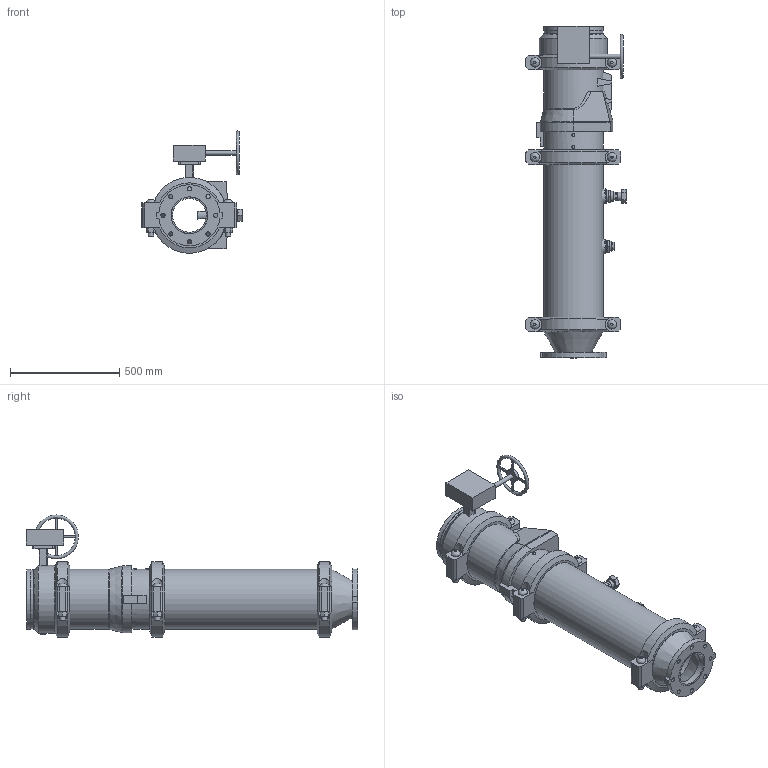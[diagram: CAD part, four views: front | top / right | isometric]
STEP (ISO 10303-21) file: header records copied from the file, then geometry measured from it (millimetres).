
FILE_DESCRIPTION(/* description */ ('VIC DVI PUMP DROP VERT S/380 (OGSxFLG) (S/924-1.25)','CAx-IF Rec.Pracs.---Representation and Presentation of Product Manufacturing Information (PMI)---4.0---2014-10-13'),/* implementation_level */ '2;1');
FILE_NAME(/* name */ 'C:\Users\Public\Documents\Victaulic.Temp\A765\Victaulic_IPS_Vertical DVI_CL 150_Series 380 (OGSxFLG)_924 (1.25)_10.0x06.0 (250x150).stp',/* time_stamp */ '2022-07-25T11:14:09+02:00',/* author */ ('Vjadhav'),/* organization */ ('Victaulic'),/* preprocessor_version */ 'ST-DEVELOPER v18',/* originating_system */ 'Autodesk Inventor 2020',/* authorisation */ '');
FILE_SCHEMA (('AP242_MANAGED_MODEL_BASED_3D_ENGINEERING_MIM_LF { 1 0 10303 442 1 1 4 }'));
Length unit declared in the file: inch
Products named in the file (9): 380_924 (1.25)-10.0x06.0; 741-06.0; 050-10.0x06.0; Pipe-10.0; 779-10.0; 923-10.0x0.75; 924-10.0x01.25; 761-10.0; 077-10.0
Assembly tree (10 placements, depth 2):
  380_924 (1.25)-10.0x06.0
    741-06.0
    050-10.0x06.0
    Pipe-10.0
    779-10.0
    923-10.0x0.75
    924-10.0x01.25
    761-10.0
    077-10.0  x3
Bounding box: 458.72 x 1517.4 x 558.01 mm (x, y, z)
Volume: 28818181.9 mm3; surface area: 3921136.6 mm2
Topology: 10 solids, 18 shells, 506 faces, 1266 edges, 863 vertices
Faces by surface type: plane 308, cylinder 163, cone 20, bspline 8, torus 7
Full cylindrical faces by diameter (mm): 10.922 x4, 12.7 x1, 13.716 x4, 19.05 x8, 20.066 x1, 21.336 x2, 22.86 x1, 25.4 x12, 26.67 x2, 27.432 x6, 38.608 x1, 42.164 x1, 45.974 x4, 48.514 x1, 55.626 x2, 63.079 x1, 70.104 x1, 76.2 x1, 154.051 x1, 163.957 x1, 168.275 x3, 254.508 x4, 264.16 x3, 268.275 x7, 273.05 x19, 311.15 x1
Entity records: 13129 total; most frequent: CARTESIAN_POINT 2639, DIRECTION 2133, ORIENTED_EDGE 1952, EDGE_CURVE 976, AXIS2_PLACEMENT_3D 811, VERTEX_POINT 667, LINE 511, VECTOR 511
